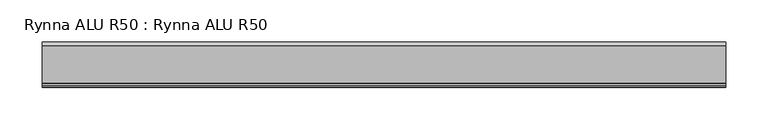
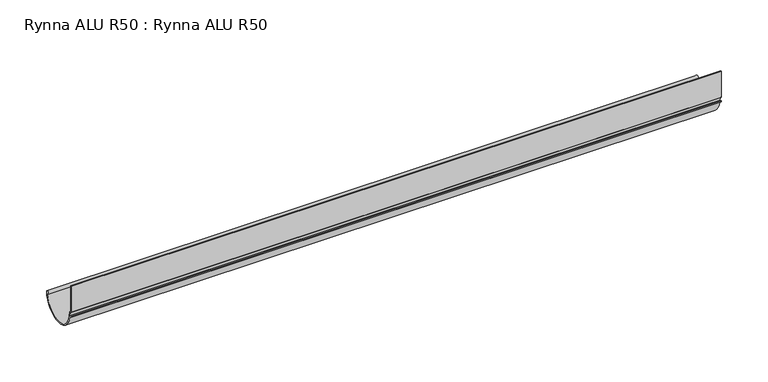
"""IFC4 building model written with IfcOpenShell, lengths in millimetres: proxy geometry, Rynna ALU R50 : Rynna ALU R50."""

from ifc_helpers import new_model, si_unit, point, frame, frame_2d, origin, place, context, project, spatial, polyline, circle_curve, trimmed, segment, composite_curve, outline, extrude, source, transform, mapped, element, save


def rynna_alu_r50_rynna_alu_r50_4b12a77f(model_context):
    return source(origin(), model_context, "Body", "SweptSolid", [
        extrude(outline(composite_curve([segment(polyline([(-0.6978396, -5.5427289), (0.7021617, -5.5427289), (0.7021617, -38.7702547), (3.0707013, -41.065916), (3.9370468, -46.8196069)]), True, "CONTINUOUS"), segment(trimmed(circle_curve(frame_2d((27.3646611, -44.302303)), 23.5624686), [point((3.9370468, -46.8196069))], [point((50.8512717, -46.1914952))], True, "CARTESIAN"), True, "CONTINUOUS"), segment(trimmed(circle_curve(frame_2d((50.3771937, -44.3000011)), 1.95), [point((50.8512717, -46.1914952))], [point((52.3271923, -44.302303))], False, "CARTESIAN"), True, "CONTINUOUS"), segment(trimmed(circle_curve(frame_2d((27.3646611, -44.302303)), 24.9625312), [point((52.3271923, -44.302303))], [point((2.6292486, -47.6619658))], False, "CARTESIAN"), True, "CONTINUOUS"), segment(polyline([(2.6292486, -47.6619658), (-0.1767814, -46.0765907), (-0.9565767, -44.1281649), (2.328284, -45.5225054), (1.8149767, -41.8701356), (-0.6978396, -39.5252625), (-0.6978396, -5.5427289)]), True, "CONTINUOUS")], self_intersect=False)), frame((-402.3373986, 0.0, 0.0), z_axis=(1.0, 0.0, 0.0), x_axis=(0.0, 1.0, 0.0)), (0.0, 0.0, 1.0), 804.6747971),
    ])


if __name__ == "__main__":
    model = new_model("IFC4")
    model_context = context("Model", 3, world=origin())
    ifc_project = project(units=[si_unit("LENGTHUNIT", "METRE", prefix="MILLI")], contexts=[model_context])
    site = spatial("IfcSite", under=ifc_project)
    building = spatial("IfcBuilding", under=site)
    placement = place(None, origin())
    rynna_alu_r50_rynna_alu_r50_shape = rynna_alu_r50_rynna_alu_r50_4b12a77f(model_context)
    element("IfcBuildingElementProxy", 1, Name="Rynna ALU R50 : Rynna ALU R50", ObjectType="Rynna ALU R50 : Rynna ALU R50", at=placement, inside=building, context=model_context, shape_type="MappedRepresentation", body=[
        mapped(rynna_alu_r50_rynna_alu_r50_shape, transform((0.0, 0.0, 0.0), x_axis=(1.0, 0.0, 0.0), y_axis=(0.0, 1.0, 0.0), z_axis=(0.0, 0.0, 1.0))),
    ])
    save(model, "model.ifc")
